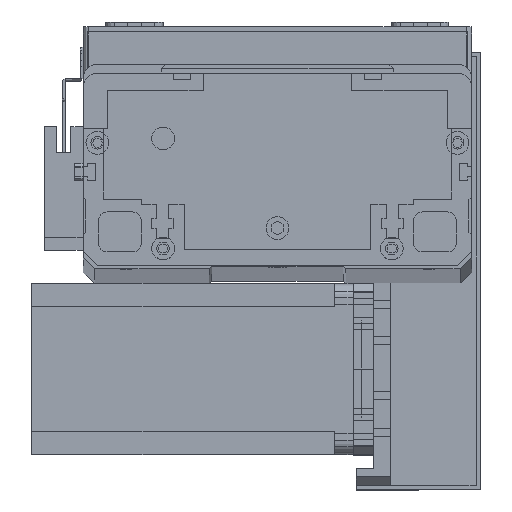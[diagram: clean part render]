
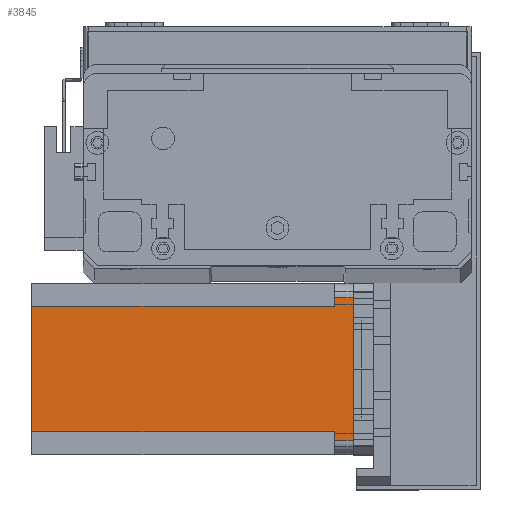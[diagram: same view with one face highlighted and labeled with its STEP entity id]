
A CAD part, top view. The second image highlights one B-rep face of the part: STEP entity #3845.
In plain terms, the highlighted planar face has unit normal (0, 0, 1) as drawn and (0, -1, 0) by its records, which use the part's own axes.
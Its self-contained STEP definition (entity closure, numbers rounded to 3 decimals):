
#1163 = DIRECTION ( 'NONE',  ( 0., -1., 0. ) ) ;
#1390 = CARTESIAN_POINT ( 'NONE',  ( 52., 0., -6.5 ) ) ;
#1522 = CARTESIAN_POINT ( 'NONE',  ( 55., 0., 0. ) ) ;
#1888 = LINE ( 'NONE', #1390, #26578 ) ;
#2798 = VERTEX_POINT ( 'NONE', #29621 ) ;
#3013 = CARTESIAN_POINT ( 'NONE',  ( 0., 0., -112.5 ) ) ;
#3745 = CARTESIAN_POINT ( 'NONE',  ( 8., 0., -6.5 ) ) ;
#3845 = ADVANCED_FACE ( 'NONE', ( #11782 ), #29823, .T. ) ;
#5142 = CARTESIAN_POINT ( 'NONE',  ( 5., 0., 0. ) ) ;
#5234 = VERTEX_POINT ( 'NONE', #5142 ) ;
#5376 = DIRECTION ( 'NONE',  ( 1., 0., 0. ) ) ;
#5634 = DIRECTION ( 'NONE',  ( 0., 0., 1. ) ) ;
#6691 = LINE ( 'NONE', #8048, #18709 ) ;
#6707 = DIRECTION ( 'NONE',  ( 0., 0., -1. ) ) ;
#7373 = LINE ( 'NONE', #19056, #13761 ) ;
#8048 = CARTESIAN_POINT ( 'NONE',  ( 8., 0., -112.5 ) ) ;
#8479 = VERTEX_POINT ( 'NONE', #28511 ) ;
#8773 = EDGE_CURVE ( 'NONE', #21740, #2798, #6691, .T. ) ;
#9502 = DIRECTION ( 'NONE',  ( 1., 0., 0. ) ) ;
#10680 = AXIS2_PLACEMENT_3D ( 'NONE', #15482, #1163, #17901 ) ;
#10821 = ORIENTED_EDGE ( 'NONE', *, *, #13304, .T. ) ;
#11072 = CARTESIAN_POINT ( 'NONE',  ( 55., 0., -112.5 ) ) ;
#11449 = LINE ( 'NONE', #21082, #17066 ) ;
#11782 = FACE_OUTER_BOUND ( 'NONE', #20462, .T. ) ;
#11859 = CARTESIAN_POINT ( 'NONE',  ( 52., 0., -112.5 ) ) ;
#12328 = VERTEX_POINT ( 'NONE', #11859 ) ;
#13304 = EDGE_CURVE ( 'NONE', #5234, #8479, #11449, .T. ) ;
#13348 = DIRECTION ( 'NONE',  ( -1., 0., 0. ) ) ;
#13469 = DIRECTION ( 'NONE',  ( 0., 0., 1. ) ) ;
#13761 = VECTOR ( 'NONE', #9502, 1000. ) ;
#14909 = LINE ( 'NONE', #22082, #20563 ) ;
#15233 = VECTOR ( 'NONE', #13348, 1000. ) ;
#15482 = CARTESIAN_POINT ( 'NONE',  ( 0., 0., -112.5 ) ) ;
#16583 = LINE ( 'NONE', #11072, #28558 ) ;
#16833 = EDGE_CURVE ( 'NONE', #21583, #22665, #1888, .T. ) ;
#17066 = VECTOR ( 'NONE', #6707, 1000. ) ;
#17901 = DIRECTION ( 'NONE',  ( 0., 0., -1. ) ) ;
#18709 = VECTOR ( 'NONE', #5634, 1000. ) ;
#18900 = LINE ( 'NONE', #3013, #24499 ) ;
#19056 = CARTESIAN_POINT ( 'NONE',  ( 0., 0., 0. ) ) ;
#19938 = ORIENTED_EDGE ( 'NONE', *, *, #23310, .T. ) ;
#20462 = EDGE_LOOP ( 'NONE', ( #23745, #25867, #25929, #10821, #24580, #27408, #19938, #28097 ) ) ;
#20563 = VECTOR ( 'NONE', #26873, 1000. ) ;
#20804 = EDGE_CURVE ( 'NONE', #21583, #12328, #14909, .T. ) ;
#21082 = CARTESIAN_POINT ( 'NONE',  ( 5., 0., -112.5 ) ) ;
#21583 = VERTEX_POINT ( 'NONE', #25191 ) ;
#21740 = VERTEX_POINT ( 'NONE', #28116 ) ;
#22082 = CARTESIAN_POINT ( 'NONE',  ( 52., 0., -112.5 ) ) ;
#22184 = VERTEX_POINT ( 'NONE', #1522 ) ;
#22665 = VERTEX_POINT ( 'NONE', #29740 ) ;
#22960 = DIRECTION ( 'NONE',  ( 1., 0., 0. ) ) ;
#23310 = EDGE_CURVE ( 'NONE', #21740, #12328, #18900, .T. ) ;
#23745 = ORIENTED_EDGE ( 'NONE', *, *, #16833, .T. ) ;
#24499 = VECTOR ( 'NONE', #5376, 1000. ) ;
#24580 = ORIENTED_EDGE ( 'NONE', *, *, #27394, .F. ) ;
#25191 = CARTESIAN_POINT ( 'NONE',  ( 52., 0., -6.5 ) ) ;
#25867 = ORIENTED_EDGE ( 'NONE', *, *, #30906, .T. ) ;
#25929 = ORIENTED_EDGE ( 'NONE', *, *, #26981, .F. ) ;
#26578 = VECTOR ( 'NONE', #22960, 1000. ) ;
#26873 = DIRECTION ( 'NONE',  ( 0., 0., -1. ) ) ;
#26981 = EDGE_CURVE ( 'NONE', #5234, #22184, #7373, .T. ) ;
#27394 = EDGE_CURVE ( 'NONE', #2798, #8479, #27982, .T. ) ;
#27408 = ORIENTED_EDGE ( 'NONE', *, *, #8773, .F. ) ;
#27982 = LINE ( 'NONE', #3745, #15233 ) ;
#28097 = ORIENTED_EDGE ( 'NONE', *, *, #20804, .F. ) ;
#28116 = CARTESIAN_POINT ( 'NONE',  ( 8., 0., -112.5 ) ) ;
#28511 = CARTESIAN_POINT ( 'NONE',  ( 5., 0., -6.5 ) ) ;
#28558 = VECTOR ( 'NONE', #13469, 1000. ) ;
#29621 = CARTESIAN_POINT ( 'NONE',  ( 8., 0., -6.5 ) ) ;
#29740 = CARTESIAN_POINT ( 'NONE',  ( 55., 0., -6.5 ) ) ;
#29823 = PLANE ( 'NONE',  #10680 ) ;
#30906 = EDGE_CURVE ( 'NONE', #22665, #22184, #16583, .T. ) ;
